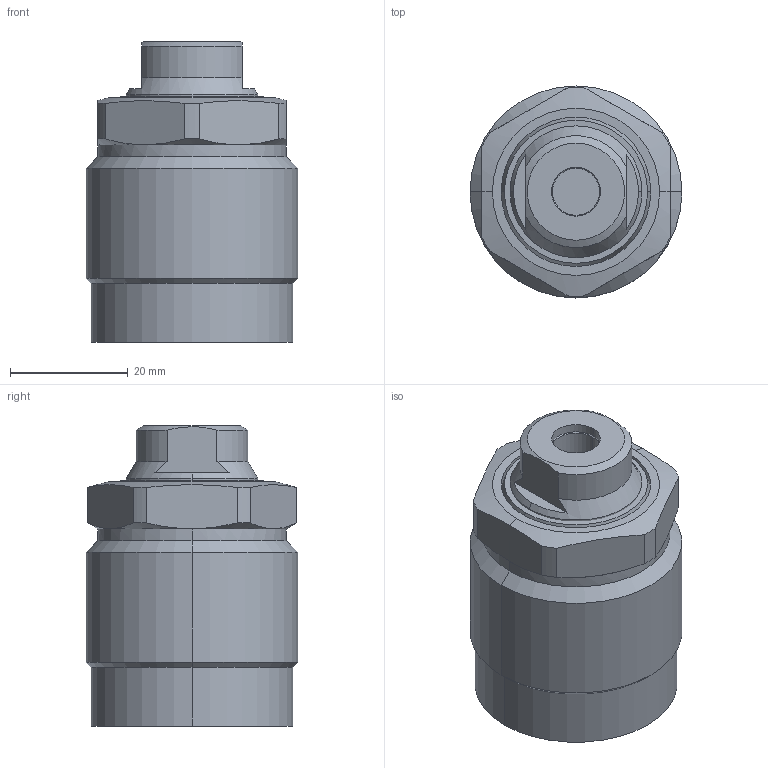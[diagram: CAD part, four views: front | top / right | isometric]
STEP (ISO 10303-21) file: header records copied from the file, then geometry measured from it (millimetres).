
FILE_DESCRIPTION((' '),'2;1');
FILE_NAME( 'TGP36-AS.x_t.stp', '2025-02-10T16:03:55', (' '), ('--- Datakit www.datakit.com---'), ' Datakit CrossCadWare V2024.1 Dec 21 2023', 'Mastercam 2025', ' ');
FILE_SCHEMA(('AUTOMOTIVE_DESIGN { 1 0 10303 214 1 1 1 1 }'));
Length unit declared in the file: millimetre
Products named in the file (1): TGP36-AS
Bounding box: 36 x 36 x 51 mm (x, y, z)
Volume: 44660.1 mm3; surface area: 9462.5 mm2
Topology: 2 solids, 2 shells, 78 faces, 195 edges, 128 vertices
Faces by surface type: cylinder 34, plane 22, cone 18, torus 4
Entity records: 2502 total; most frequent: CARTESIAN_POINT 578, DIRECTION 422, ORIENTED_EDGE 386, EDGE_CURVE 193, AXIS2_PLACEMENT_3D 180, VERTEX_POINT 128, CIRCLE 101, EDGE_LOOP 87
